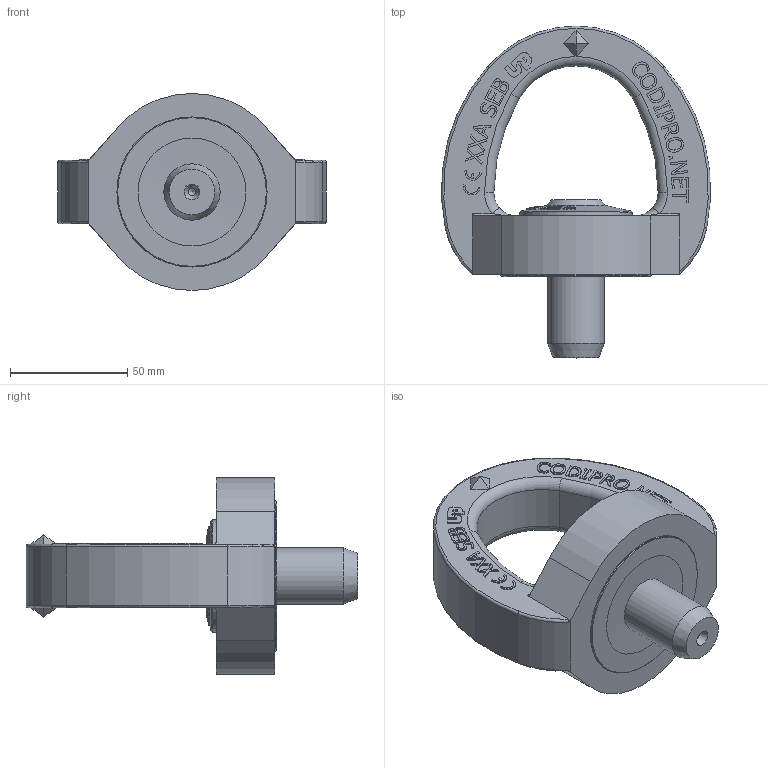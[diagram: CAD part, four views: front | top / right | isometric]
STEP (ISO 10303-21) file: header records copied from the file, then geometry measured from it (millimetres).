
FILE_DESCRIPTION(/* description */ (''),/* implementation_level */ '2;1');
FILE_NAME(/* name */ 'W:\CODIPRO\DOCUMENTS\Plans A NE PAS DIFFUSER !!!\Fichiers STEP\Gamme 2018\Produits GRADUP\SEB UP\SEB M24 4t2 UP.stp',/* time_stamp */ '2017-09-21T16:02:07+02:00',/* author */ ('rklenes'),/* organization */ (''),/* preprocessor_version */ 'ST-DEVELOPER v16.5',/* originating_system */ 'Autodesk Inventor 2017',/* authorisation */ '');
FILE_SCHEMA (('AUTOMOTIVE_DESIGN { 1 0 10303 214 3 1 1 }'));
Length unit declared in the file: millimetre
Products named in the file (4): SEB M24 4t2 UP; SEM_3bis; SEE_M24A; SEA_M24X56_UP
Assembly tree (3 placements, depth 2):
  SEB M24 4t2 UP
    SEM_3bis
    SEE_M24A
    SEA_M24X56_UP
Bounding box: 114.64 x 141.5 x 84 mm (x, y, z)
Volume: 280418.9 mm3; surface area: 56080 mm2
Topology: 3 solids, 3 shells, 668 faces, 1770 edges, 1157 vertices
Faces by surface type: plane 383, bspline 176, cone 45, cylinder 41, torus 23
Full cylindrical faces by diameter (mm): 3.15 x1, 24 x3, 24.2 x1, 40 x3, 48 x2, 64 x2
Entity records: 22484 total; most frequent: CARTESIAN_POINT 7255, ORIENTED_EDGE 3454, DIRECTION 2519, EDGE_CURVE 1727, VERTEX_POINT 1152, LINE 977, VECTOR 977, AXIS2_PLACEMENT_3D 771
